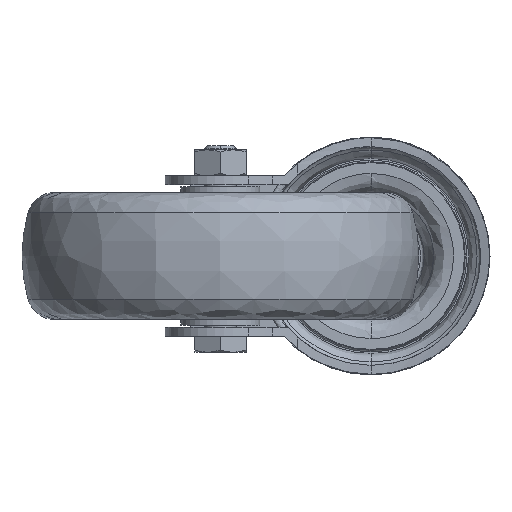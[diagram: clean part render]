
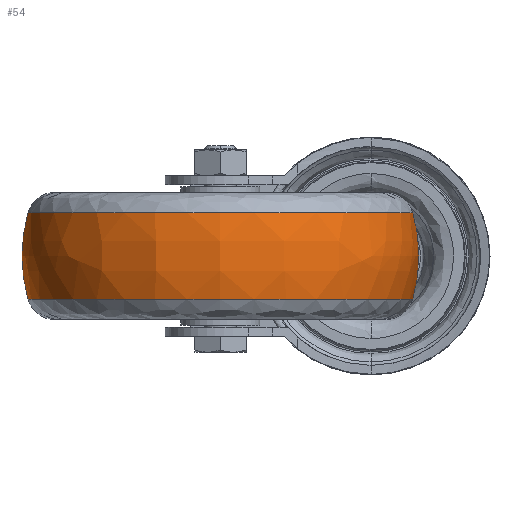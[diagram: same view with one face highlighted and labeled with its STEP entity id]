
A CAD part, front view. The second image highlights one B-rep face of the part: STEP entity #54.
In plain terms, the highlighted free-form (B-spline) face has degree [3, 3] with [4, 4] control points.
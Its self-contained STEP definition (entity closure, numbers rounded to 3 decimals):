
#54 = ADVANCED_FACE ( 'NONE', ( #6353 ), #7120, .T. ) ;
#76 = DIRECTION ( 'NONE',  ( 1., 0., 0. ) ) ;
#328 = CIRCLE ( 'NONE', #469, 48.484 ) ;
#452 = CARTESIAN_POINT ( 'NONE',  ( 12.519, -186.037, -3.731 ) ) ;
#469 = AXIS2_PLACEMENT_3D ( 'NONE', #5588, #3553, #1078 ) ;
#531 = CARTESIAN_POINT ( 'NONE',  ( -88.519, -186.037, 3.731 ) ) ;
#712 = VERTEX_POINT ( 'NONE', #6965 ) ;
#768 = EDGE_CURVE ( 'NONE', #7049, #712, #5629, .T. ) ;
#1078 = DIRECTION ( 'NONE',  ( 1., 0., 0. ) ) ;
#1088 = CARTESIAN_POINT ( 'NONE',  ( 12.519, -85., 3.731 ) ) ;
#1169 = VERTEX_POINT ( 'NONE', #5067 ) ;
#1177 = DIRECTION ( 'NONE',  ( 0., 0., 1. ) ) ;
#1259 = DIRECTION ( 'NONE',  ( 1., 0., 0. ) ) ;
#1516 = DIRECTION ( 'NONE',  ( 0., -1., 0. ) ) ;
#1607 = EDGE_CURVE ( 'NONE', #712, #8053, #4425, .T. ) ;
#1724 = CARTESIAN_POINT ( 'NONE',  ( 10.484, -85., 10.909 ) ) ;
#1738 = CARTESIAN_POINT ( 'NONE',  ( -86.484, -85., 10.909 ) ) ;
#2368 = CARTESIAN_POINT ( 'NONE',  ( 10.484, -181.967, 10.909 ) ) ;
#2407 = CARTESIAN_POINT ( 'NONE',  ( 12.519, -85., -3.731 ) ) ;
#2439 = AXIS2_PLACEMENT_3D ( 'NONE', #4521, #2768, #76 ) ;
#2500 = ORIENTED_EDGE ( 'NONE', *, *, #4423, .F. ) ;
#2768 = DIRECTION ( 'NONE',  ( 0., 1., 0. ) ) ;
#2776 = AXIS2_PLACEMENT_3D ( 'NONE', #6612, #1516, #8018 ) ;
#3056 = CARTESIAN_POINT ( 'NONE',  ( -86.484, -85., -10.909 ) ) ;
#3134 = CARTESIAN_POINT ( 'NONE',  ( 12.519, -186.037, 3.731 ) ) ;
#3226 = EDGE_CURVE ( 'NONE', #1169, #7049, #328, .T. ) ;
#3371 = ORIENTED_EDGE ( 'NONE', *, *, #768, .T. ) ;
#3553 = DIRECTION ( 'NONE',  ( 0., 0., -1. ) ) ;
#4081 = ORIENTED_EDGE ( 'NONE', *, *, #1607, .T. ) ;
#4330 = CARTESIAN_POINT ( 'NONE',  ( -88.519, -85., 3.731 ) ) ;
#4373 = CARTESIAN_POINT ( 'NONE',  ( -88.519, -186.037, -3.731 ) ) ;
#4423 = EDGE_CURVE ( 'NONE', #1169, #8053, #4892, .T. ) ;
#4425 = CIRCLE ( 'NONE', #6849, 48.484 ) ;
#4521 = CARTESIAN_POINT ( 'NONE',  ( -28., -85., 0. ) ) ;
#4645 = EDGE_LOOP ( 'NONE', ( #6727, #3371, #4081, #2500 ) ) ;
#4892 = CIRCLE ( 'NONE', #2439, 40. ) ;
#4999 = CARTESIAN_POINT ( 'NONE',  ( 10.484, -181.967, -10.909 ) ) ;
#5067 = CARTESIAN_POINT ( 'NONE',  ( 10.484, -85., 10.909 ) ) ;
#5259 = CARTESIAN_POINT ( 'NONE',  ( 10.484, -85., -10.909 ) ) ;
#5588 = CARTESIAN_POINT ( 'NONE',  ( -38., -85., 10.909 ) ) ;
#5629 = CIRCLE ( 'NONE', #2776, 40. ) ;
#5638 = CARTESIAN_POINT ( 'NONE',  ( -86.484, -181.967, -10.909 ) ) ;
#6274 = CARTESIAN_POINT ( 'NONE',  ( -86.484, -85., 10.909 ) ) ;
#6353 = FACE_OUTER_BOUND ( 'NONE', #4645, .T. ) ;
#6359 = CARTESIAN_POINT ( 'NONE',  ( -38., -85., -10.909 ) ) ;
#6612 = CARTESIAN_POINT ( 'NONE',  ( -48., -85., 0. ) ) ;
#6727 = ORIENTED_EDGE ( 'NONE', *, *, #3226, .T. ) ;
#6849 = AXIS2_PLACEMENT_3D ( 'NONE', #6359, #1177, #1259 ) ;
#6948 = CARTESIAN_POINT ( 'NONE',  ( 10.484, -85., -10.909 ) ) ;
#6965 = CARTESIAN_POINT ( 'NONE',  ( -86.484, -85., -10.909 ) ) ;
#7049 = VERTEX_POINT ( 'NONE', #1738 ) ;
#7120 =( BOUNDED_SURFACE ( )  B_SPLINE_SURFACE ( 3, 3, ( 
 ( #6274, #8180, #2368, #1724 ),
 ( #4330, #531, #3134, #1088 ),
 ( #8300, #4373, #452, #2407 ),
 ( #3056, #5638, #4999, #6948 ) ),
 .UNSPECIFIED., .F., .F., .F. ) 
 B_SPLINE_SURFACE_WITH_KNOTS ( ( 4, 4 ),
 ( 4, 4 ),
 ( 0., 1. ),
 ( 0., 1. ),
 .UNSPECIFIED. ) 
 GEOMETRIC_REPRESENTATION_ITEM ( )  RATIONAL_B_SPLINE_SURFACE ( (
 ( 1., 0.333, 0.333, 1.),
 ( 0.975, 0.325, 0.325, 0.975),
 ( 0.975, 0.325, 0.325, 0.975),
 ( 1., 0.333, 0.333, 1.) ) ) 
 REPRESENTATION_ITEM ( '' )  SURFACE ( )  );
#8018 = DIRECTION ( 'NONE',  ( -1., 0., 0. ) ) ;
#8053 = VERTEX_POINT ( 'NONE', #5259 ) ;
#8180 = CARTESIAN_POINT ( 'NONE',  ( -86.484, -181.967, 10.909 ) ) ;
#8300 = CARTESIAN_POINT ( 'NONE',  ( -88.519, -85., -3.731 ) ) ;
